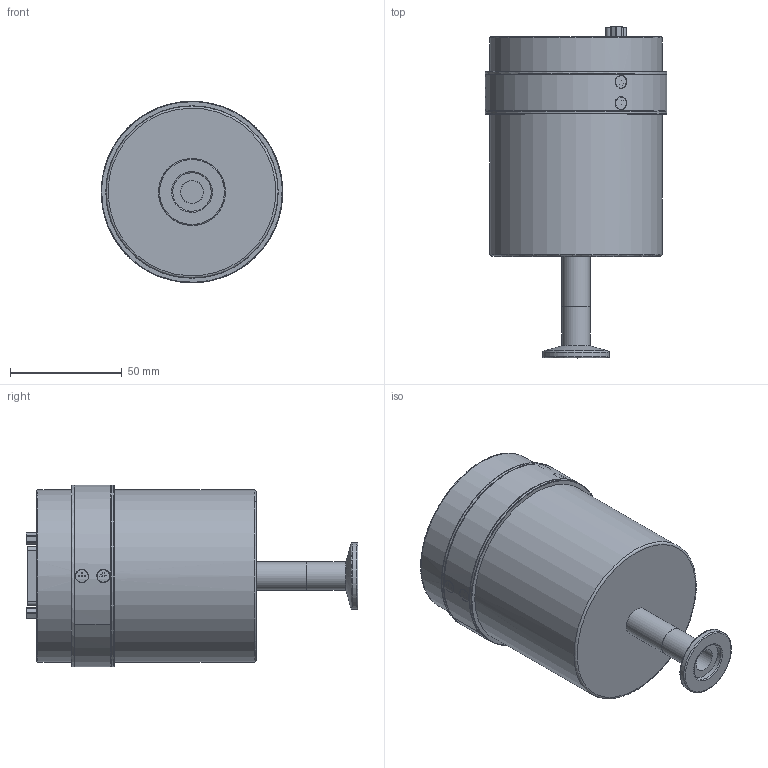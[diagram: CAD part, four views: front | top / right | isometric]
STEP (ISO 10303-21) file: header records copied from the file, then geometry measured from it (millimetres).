
FILE_DESCRIPTION (( 'STEP AP203' ), '1' );
FILE_NAME ('RBM-510 KF16Íâ.STEP', '2025-10-23T07:28:59', ( '' ), ( '' ), 'SwSTEP 2.0', 'SolidWorks 2021', '' );
FILE_SCHEMA (( 'CONFIG_CONTROL_DESIGN' ));
Length unit declared in the file: millimetre
Products named in the file (1): RBM-510 KF16俋
Bounding box: 81.2 x 148.51 x 81.2 mm (x, y, z)
Volume: 467811.6 mm3; surface area: 47459.7 mm2
Topology: 2 solids, 10 shells, 317 faces, 733 edges, 452 vertices
Faces by surface type: plane 158, cylinder 107, bspline 31, cone 21
Full cylindrical faces by diameter (mm): 0.8 x15, 1.2 x1, 2.2 x2, 2.8 x2, 3 x6, 3.1 x6, 3.2 x4, 3.3 x2, 5.5 x6, 10.3 x2, 12.7 x2, 12.8 x1, 17.2 x1, 30 x1, 77 x2, 77.2 x2, 81.2 x3
Entity records: 14962 total; most frequent: CARTESIAN_POINT 8645, DIRECTION 1269, ORIENTED_EDGE 1114, EDGE_CURVE 557, AXIS2_PLACEMENT_3D 476, EDGE_LOOP 466, VERTEX_POINT 391, FACE_OUTER_BOUND 391
